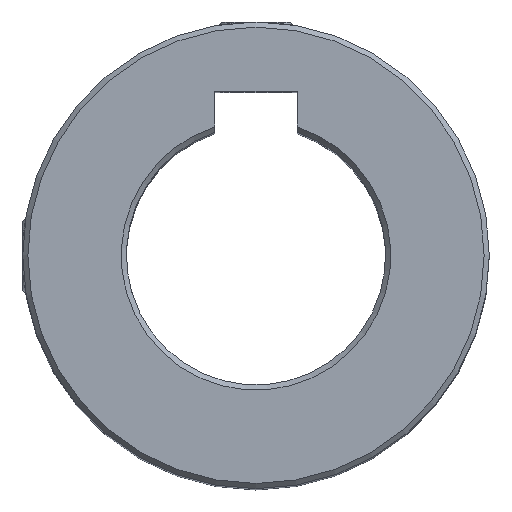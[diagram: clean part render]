
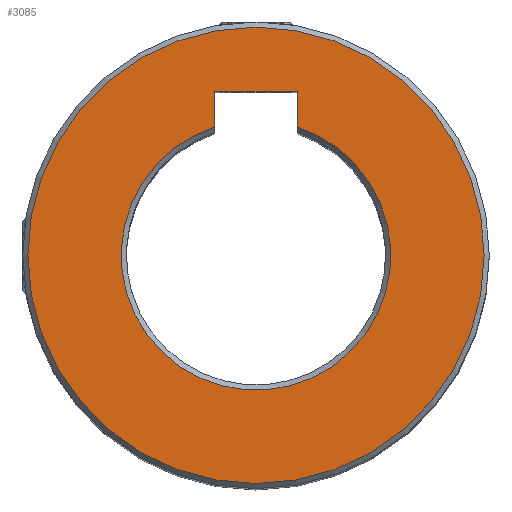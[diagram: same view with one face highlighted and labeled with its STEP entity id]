
A CAD part, top view. The second image highlights one B-rep face of the part: STEP entity #3085.
In plain terms, the highlighted planar face has unit normal (0, 0, 1).
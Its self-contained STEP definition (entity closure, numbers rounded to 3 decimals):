
#152 = EDGE_CURVE ( 'NONE', #8596, #8596, #8051, .T. ) ;
#538 = CARTESIAN_POINT ( 'NONE',  ( 4., 12.369, 37.5 ) ) ;
#558 = FACE_BOUND ( 'NONE', #2282, .T. ) ;
#643 = CIRCLE ( 'NONE', #6291, 13. ) ;
#649 = DIRECTION ( 'NONE',  ( 0., 0., 1. ) ) ;
#861 = CARTESIAN_POINT ( 'NONE',  ( 4., 15.8, 37.5 ) ) ;
#1291 = EDGE_CURVE ( 'NONE', #8952, #3015, #643, .T. ) ;
#1353 = DIRECTION ( 'NONE',  ( 0., -1., 0. ) ) ;
#1375 = CARTESIAN_POINT ( 'NONE',  ( 0., 0., 37.5 ) ) ;
#1748 = VECTOR ( 'NONE', #2354, 1000. ) ;
#1813 = VECTOR ( 'NONE', #2703, 1000. ) ;
#1822 = DIRECTION ( 'NONE',  ( 1., 0., 0. ) ) ;
#1905 = CARTESIAN_POINT ( 'NONE',  ( 4., 15.8, 37.5 ) ) ;
#2073 = EDGE_CURVE ( 'NONE', #6209, #2833, #6496, .T. ) ;
#2084 = DIRECTION ( 'NONE',  ( 0., 0., 1. ) ) ;
#2282 = EDGE_LOOP ( 'NONE', ( #2471, #8187, #8630, #3520 ) ) ;
#2354 = DIRECTION ( 'NONE',  ( -1., 0., 0. ) ) ;
#2471 = ORIENTED_EDGE ( 'NONE', *, *, #4588, .F. ) ;
#2703 = DIRECTION ( 'NONE',  ( 0., 1., 0. ) ) ;
#2755 = CARTESIAN_POINT ( 'NONE',  ( -4., 15.8, 37.5 ) ) ;
#2833 = VERTEX_POINT ( 'NONE', #6789 ) ;
#2845 = LINE ( 'NONE', #2755, #9122 ) ;
#3015 = VERTEX_POINT ( 'NONE', #4950 ) ;
#3039 = EDGE_LOOP ( 'NONE', ( #3718 ) ) ;
#3085 = ADVANCED_FACE ( 'NONE', ( #558, #8130 ), #4197, .T. ) ;
#3520 = ORIENTED_EDGE ( 'NONE', *, *, #2073, .F. ) ;
#3718 = ORIENTED_EDGE ( 'NONE', *, *, #152, .T. ) ;
#4097 = LINE ( 'NONE', #1905, #1813 ) ;
#4197 = PLANE ( 'NONE',  #8405 ) ;
#4588 = EDGE_CURVE ( 'NONE', #8952, #6209, #4097, .T. ) ;
#4950 = CARTESIAN_POINT ( 'NONE',  ( -4., 12.369, 37.5 ) ) ;
#5378 = CARTESIAN_POINT ( 'NONE',  ( 0., 0., 37.5 ) ) ;
#6182 = EDGE_CURVE ( 'NONE', #2833, #3015, #2845, .T. ) ;
#6209 = VERTEX_POINT ( 'NONE', #6292 ) ;
#6291 = AXIS2_PLACEMENT_3D ( 'NONE', #5378, #8175, #1822 ) ;
#6292 = CARTESIAN_POINT ( 'NONE',  ( 4., 15.8, 37.5 ) ) ;
#6331 = DIRECTION ( 'NONE',  ( 1., 0., 0. ) ) ;
#6363 = DIRECTION ( 'NONE',  ( 1., 0., 0. ) ) ;
#6496 = LINE ( 'NONE', #861, #1748 ) ;
#6789 = CARTESIAN_POINT ( 'NONE',  ( -4., 15.8, 37.5 ) ) ;
#7014 = CARTESIAN_POINT ( 'NONE',  ( 0., 0., 37.5 ) ) ;
#7026 = AXIS2_PLACEMENT_3D ( 'NONE', #1375, #2084, #6363 ) ;
#7157 = CARTESIAN_POINT ( 'NONE',  ( 22., 0., 37.5 ) ) ;
#8051 = CIRCLE ( 'NONE', #7026, 22. ) ;
#8130 = FACE_OUTER_BOUND ( 'NONE', #3039, .T. ) ;
#8175 = DIRECTION ( 'NONE',  ( 0., 0., -1. ) ) ;
#8187 = ORIENTED_EDGE ( 'NONE', *, *, #1291, .T. ) ;
#8405 = AXIS2_PLACEMENT_3D ( 'NONE', #7014, #649, #6331 ) ;
#8596 = VERTEX_POINT ( 'NONE', #7157 ) ;
#8630 = ORIENTED_EDGE ( 'NONE', *, *, #6182, .F. ) ;
#8952 = VERTEX_POINT ( 'NONE', #538 ) ;
#9122 = VECTOR ( 'NONE', #1353, 1000. ) ;
